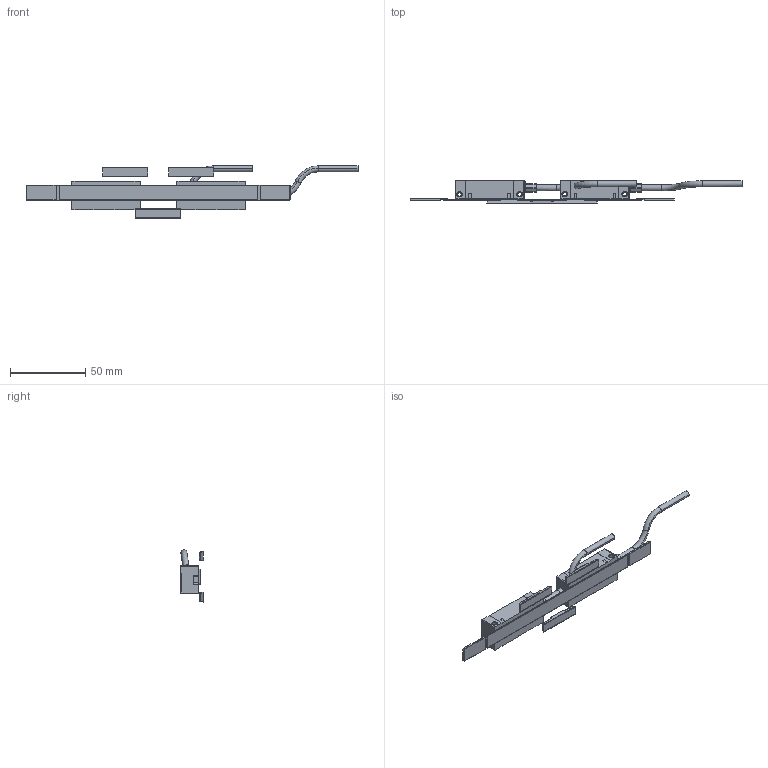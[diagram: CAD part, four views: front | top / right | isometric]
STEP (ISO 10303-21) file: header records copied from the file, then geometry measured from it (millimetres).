
FILE_DESCRIPTION(('Creo Elements/Direct Modeling STEP Export'),'2;1');
FILE_NAME('ITA-70.stp','2025-01-23T 7:44:41',(''),(''),'Creo Elements/Direct Modeling STEP processor for AP214 (Solid Model)','Creo Elements/Direct Modeling 20.4A 18-Oct-2021 (C) Parametric Technology GmbH','');
FILE_SCHEMA(('AUTOMOTIVE_DESIGN { 1 0 10303 214 1 1 1 1 }'));
Length unit declared in the file: millimetre
Products named in the file (9): MAGNET_L1; MAGNET_L2; MAGNET_I0; END_TAPE_1; END_TAPE_2; READING_HEAD_1; TAPE_70; READING_HEAD_2; ITA_70
Assembly tree (8 placements, depth 2):
  ITA_70
    READING_HEAD_2
    TAPE_70
    READING_HEAD_1
    END_TAPE_2
    END_TAPE_1
    MAGNET_I0
    MAGNET_L2
    MAGNET_L1
Bounding box: 221.13 x 15.04 x 34.83 mm (x, y, z)
Volume: 24532.3 mm3; surface area: 15387.8 mm2
Topology: 8 solids, 8 shells, 1250 faces, 3422 edges, 2219 vertices
Faces by surface type: plane 908, cylinder 234, bspline 42, cone 32, torus 22, sphere 12
Entity records: 49184 total; most frequent: CARTESIAN_POINT 9936, ORIENTED_EDGE 6804, DIRECTION 6125, EDGE_CURVE 3402, VECTOR 2781, LINE 2781, VERTEX_POINT 2219, AXIS2_PLACEMENT_3D 1672
